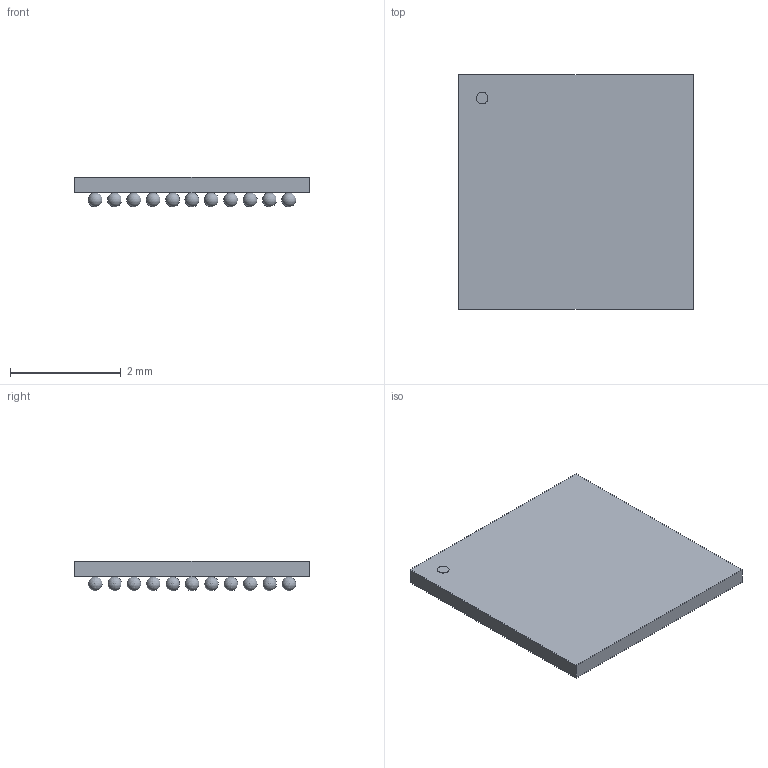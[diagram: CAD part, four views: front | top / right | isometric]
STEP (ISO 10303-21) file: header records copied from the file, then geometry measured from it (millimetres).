
FILE_DESCRIPTION(('STEP AP214'),'1');
FILE_NAME('WLCSP114_SOT2019_NXP','2026-03-06T09:58:00',(''),(''),'','','');
FILE_SCHEMA(('AUTOMOTIVE_DESIGN'));
Length unit declared in the file: millimetre
Products named in the file (1): product
Bounding box: 4.24 x 4.24 x 0.54 mm (x, y, z)
Volume: 6 mm3; surface area: 63.9 mm2
Topology: 116 solids, 116 shells, 123 faces, 357 edges, 238 vertices
Faces by surface type: sphere 114, plane 8, cylinder 1
Full cylindrical faces by diameter (mm): 0.212 x1
Entity records: 1399 total; most frequent: DIRECTION 266, CARTESIAN_POINT 137, AXIS2_PLACEMENT_3D 127, STYLED_ITEM 123, ADVANCED_FACE 123, MANIFOLD_SOLID_BREP 116, CLOSED_SHELL 116, SPHERICAL_SURFACE 114
